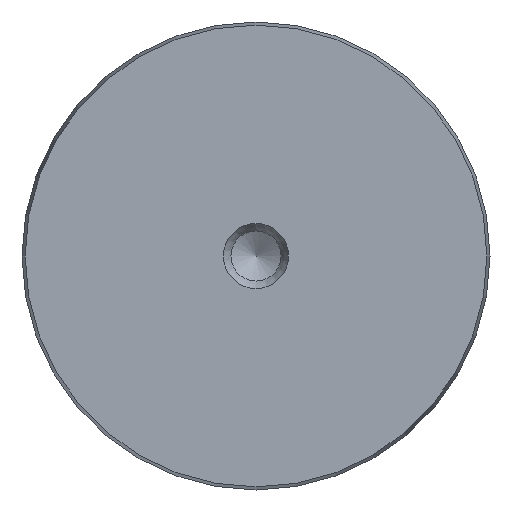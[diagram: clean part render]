
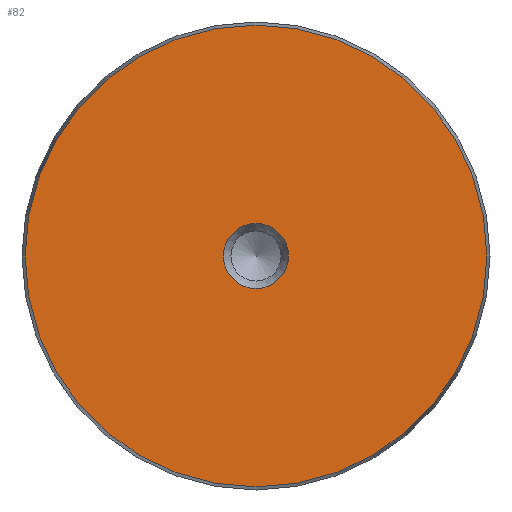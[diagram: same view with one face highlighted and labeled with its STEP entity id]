
A CAD part, front view. The second image highlights one B-rep face of the part: STEP entity #82.
In plain terms, the highlighted planar face has unit normal (0, -1, 0).
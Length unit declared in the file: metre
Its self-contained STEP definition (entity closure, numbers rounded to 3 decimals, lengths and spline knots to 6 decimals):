
#82 = ADVANCED_FACE( '', ( #108, #109 ), #110, .T. );
#108 = FACE_BOUND( '', #150, .T. );
#109 = FACE_OUTER_BOUND( '', #151, .T. );
#110 = PLANE( '', #152 );
#150 = EDGE_LOOP( '', ( #202 ) );
#151 = EDGE_LOOP( '', ( #203 ) );
#152 = AXIS2_PLACEMENT_3D( '', #204, #205, #206 );
#202 = ORIENTED_EDGE( '', *, *, #252, .T. );
#203 = ORIENTED_EDGE( '', *, *, #254, .T. );
#204 = CARTESIAN_POINT( '', ( 0., -0.1575, 0. ) );
#205 = DIRECTION( '', ( 0., -1., 0. ) );
#206 = DIRECTION( '', ( 0., 0., -1. ) );
#252 = EDGE_CURVE( '', #270, #270, #271, .F. );
#254 = EDGE_CURVE( '', #274, #274, #275, .T. );
#270 = VERTEX_POINT( '', #296 );
#271 = CIRCLE( '', #297, 0.004375 );
#274 = VERTEX_POINT( '', #300 );
#275 = CIRCLE( '', #301, 0.031078 );
#296 = CARTESIAN_POINT( '', ( 0., -0.1575, -0.004375 ) );
#297 = AXIS2_PLACEMENT_3D( '', #326, #327, #328 );
#300 = CARTESIAN_POINT( '', ( 0., -0.1575, -0.031078 ) );
#301 = AXIS2_PLACEMENT_3D( '', #332, #333, #334 );
#326 = CARTESIAN_POINT( '', ( 0., -0.1575, 0. ) );
#327 = DIRECTION( '', ( 0., -1., 0. ) );
#328 = DIRECTION( '', ( 0., 0., -1. ) );
#332 = CARTESIAN_POINT( '', ( 0., -0.1575, 0. ) );
#333 = DIRECTION( '', ( 0., -1., 0. ) );
#334 = DIRECTION( '', ( 0., 0., -1. ) );
